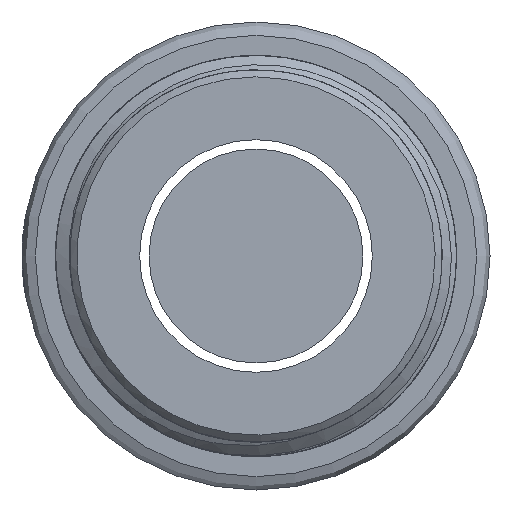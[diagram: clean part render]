
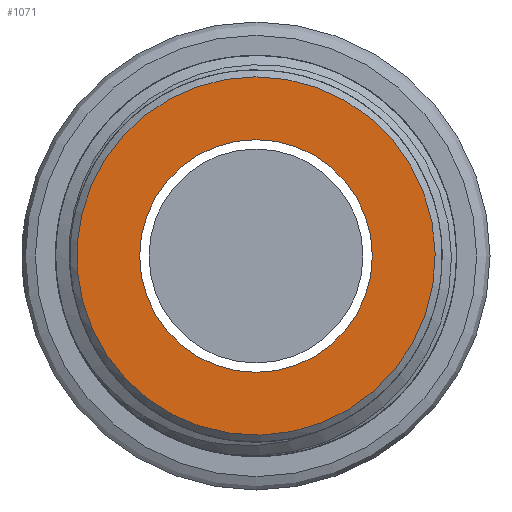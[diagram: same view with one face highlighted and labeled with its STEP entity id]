
A CAD part, left-side view. The second image highlights one B-rep face of the part: STEP entity #1071.
In plain terms, the highlighted planar face has unit normal (-1, 0, 0).
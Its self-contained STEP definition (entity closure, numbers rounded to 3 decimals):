
#94 = AXIS2_PLACEMENT_3D ( 'NONE', #616, #141, #1586 ) ;
#122 = AXIS2_PLACEMENT_3D ( 'NONE', #1303, #984, #700 ) ;
#141 = DIRECTION ( 'NONE',  ( -1., 0., 0. ) ) ;
#188 = VERTEX_POINT ( 'NONE', #201 ) ;
#199 = EDGE_CURVE ( 'NONE', #771, #771, #704, .T. ) ;
#201 = CARTESIAN_POINT ( 'NONE',  ( -23.5, 0., -4.35 ) ) ;
#356 = FACE_OUTER_BOUND ( 'NONE', #1618, .T. ) ;
#405 = EDGE_LOOP ( 'NONE', ( #1767 ) ) ;
#616 = CARTESIAN_POINT ( 'NONE',  ( -23.5, 0., 0. ) ) ;
#658 = FACE_BOUND ( 'NONE', #405, .T. ) ;
#700 = DIRECTION ( 'NONE',  ( 0., 0., 1. ) ) ;
#704 = CIRCLE ( 'NONE', #94, 6.7 ) ;
#771 = VERTEX_POINT ( 'NONE', #1244 ) ;
#897 = CIRCLE ( 'NONE', #1099, 4.35 ) ;
#984 = DIRECTION ( 'NONE',  ( -1., 0., 0. ) ) ;
#1004 = ORIENTED_EDGE ( 'NONE', *, *, #199, .T. ) ;
#1071 = ADVANCED_FACE ( 'NONE', ( #356, #658 ), #1146, .T. ) ;
#1099 = AXIS2_PLACEMENT_3D ( 'NONE', #1599, #1563, #1108 ) ;
#1108 = DIRECTION ( 'NONE',  ( 0., 0., -1. ) ) ;
#1146 = PLANE ( 'NONE',  #122 ) ;
#1244 = CARTESIAN_POINT ( 'NONE',  ( -23.5, 0., 6.7 ) ) ;
#1303 = CARTESIAN_POINT ( 'NONE',  ( -23.5, 7.5, 0. ) ) ;
#1563 = DIRECTION ( 'NONE',  ( 1., 0., 0. ) ) ;
#1586 = DIRECTION ( 'NONE',  ( 0., 0., 1. ) ) ;
#1599 = CARTESIAN_POINT ( 'NONE',  ( -23.5, 0., 0. ) ) ;
#1618 = EDGE_LOOP ( 'NONE', ( #1004 ) ) ;
#1764 = EDGE_CURVE ( 'NONE', #188, #188, #897, .T. ) ;
#1767 = ORIENTED_EDGE ( 'NONE', *, *, #1764, .T. ) ;
